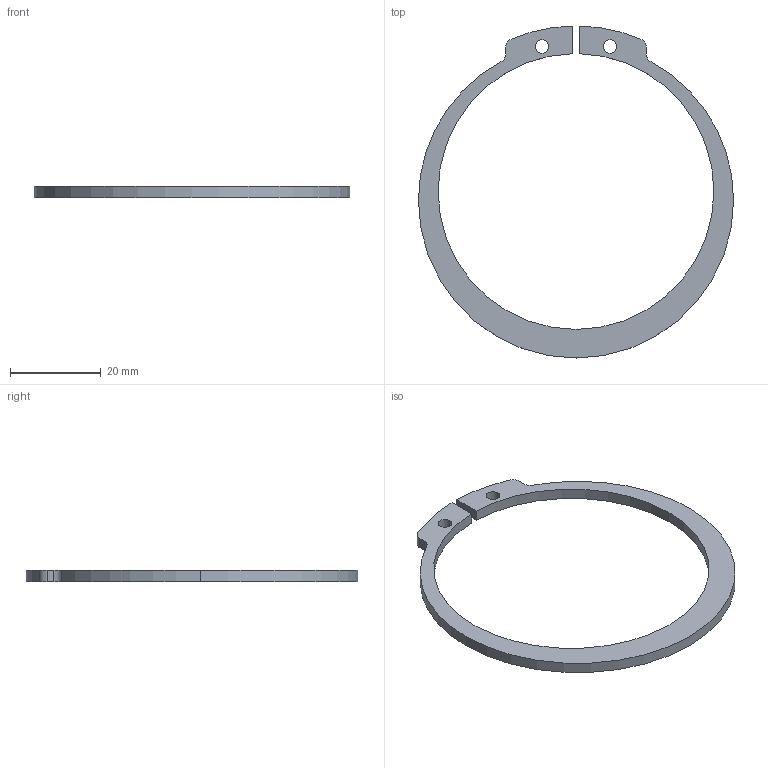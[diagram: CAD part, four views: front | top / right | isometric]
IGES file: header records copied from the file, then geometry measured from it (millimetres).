
Start section: START RECORD GO HERE.
Global section: file name: 553S-R66.igs; native system: DASSAULT SYSTEMES CATIA V5 R20 - www.3ds.com; preprocessor: CATIA Version 5 Release 20 ; author: Utente; organization: NB04-ASUS; date: 20210421.111325; units: millimetre
Bounding box: 69.5 x 73.19 x 2.5 mm (x, y, z)
Surface area: 3077.2 mm2 (no closed solid volume)
Topology: 0 solids, 0 shells, 22 faces, 120 edges, 120 vertices
Faces by surface type: revolution 16, plane 6
